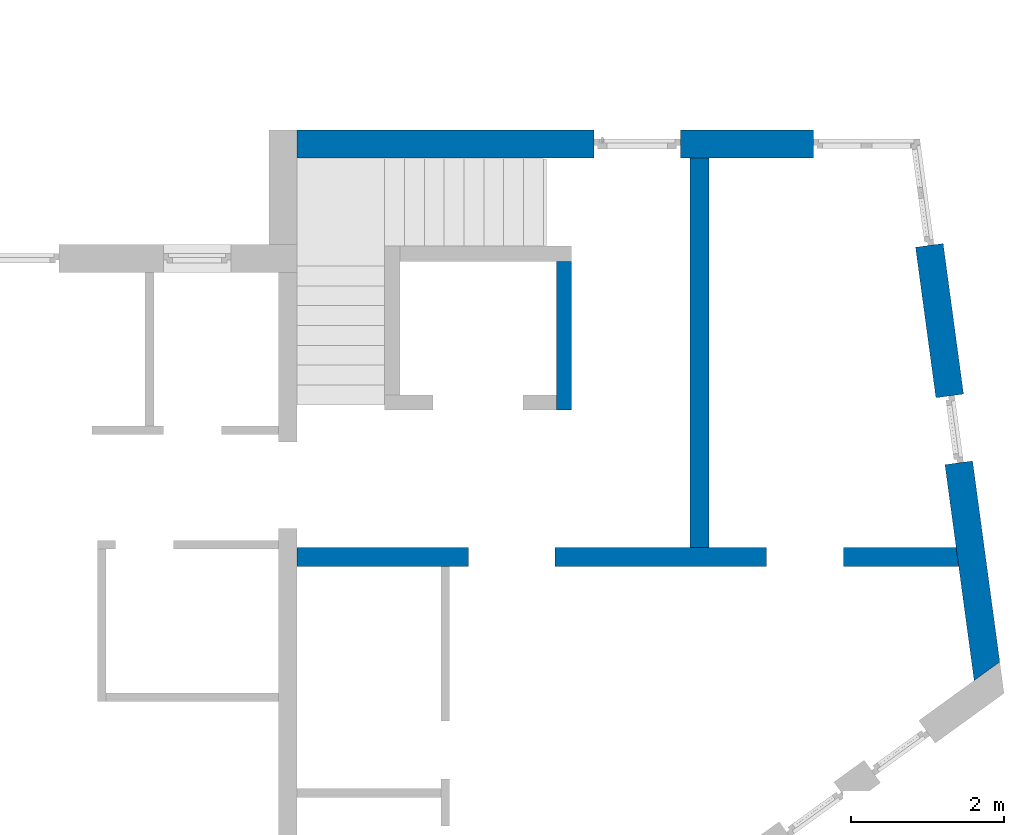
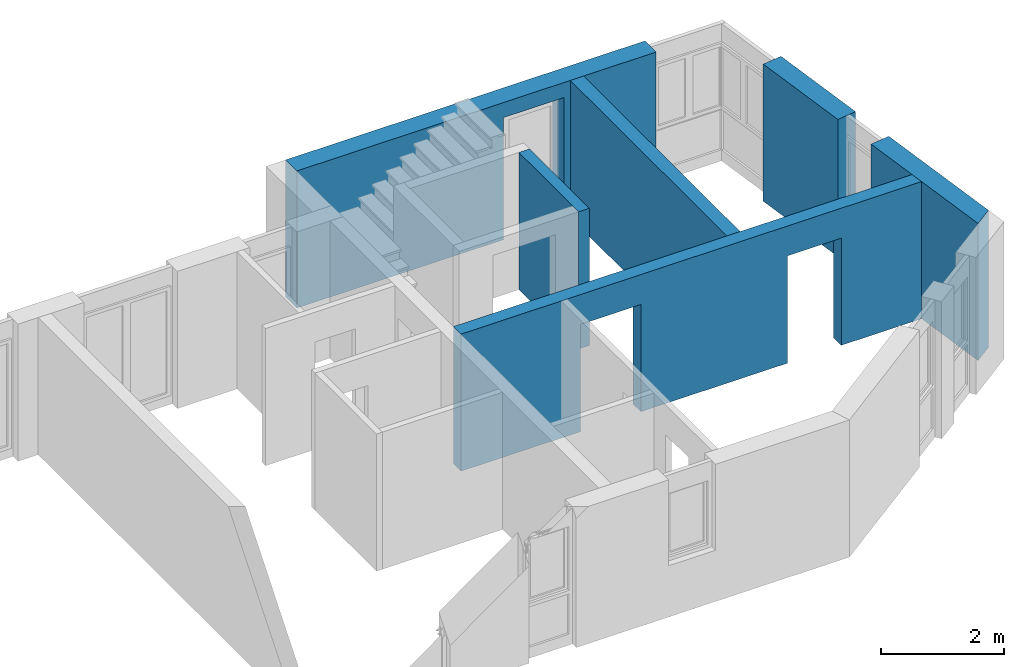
# One storey, part 3 of 41: 5 walls, 6 openings.
"""IFC2X3 building model written with IfcOpenShell, lengths in millimetres."""

from ifc_helpers import new_model, entity, si_unit, converted_unit, frame, frame_2d, origin, origin_with_axes, place, context, subcontext, project, spatial, polyline, rectangle, outline, extrude, faceted_brep, material, layer, layer_set, layer_usage, element, save


model = new_model("IFC2X3")

# Units and contexts
model_context = context("Model", 3, precision=1e-05, world=origin())
body_context = subcontext(model_context, "Body", "Model", "MODEL_VIEW")
ifc_project = project(units=[si_unit("LENGTHUNIT", "METRE", prefix="MILLI"), converted_unit("PLANEANGLEUNIT", "DEGREE", entity("IfcPlaneAngleMeasure", 0.0174532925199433), si_unit("PLANEANGLEUNIT", "RADIAN"), dimensions=[0, 0, 0, 0, 0, 0, 0]), si_unit("AREAUNIT", "SQUARE_METRE"), si_unit("VOLUMEUNIT", "CUBIC_METRE")], contexts=[model_context])

# Building, storey
building_placement = place(None, origin())
building = spatial("IfcBuilding", under=ifc_project, at=building_placement, Name="Gebäude", CompositionType="ELEMENT")
storey_placement = place(building_placement, frame((0.0, 0.0, -200.0), z_axis=(0.0, 0.0, 1.0), x_axis=(1.0, 0.0, 0.0)))
storey = spatial("IfcBuildingStorey", under=building, at=storey_placement, Name="EG.- Grundriss", CompositionType="ELEMENT", Elevation=-200.0)

# Wall, openings
ifc_material_1 = material(Name="Poroton")
ifc_layer_1 = layer(ifc_material_1, 365.0000000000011)
ifc_layer_set_1 = layer_set([ifc_layer_1])
ifc_layer_usage_1 = layer_usage(ifc_layer_set_1, "AXIS2", "POSITIVE", 0.0)
wall_1_placement = place(storey_placement, frame((185447.2761832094, 129305.31365621, 0.0), z_axis=(0.0, 0.0, 1.0), x_axis=(-0.1340451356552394, 0.9909752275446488, 0.0)))
wall_1 = element("IfcWallStandardCase", 1, at=wall_1_placement, inside=storey, material=ifc_layer_usage_1, Name="<Unnamed Element>", context=body_context, shape_type="SweptSolid", body=[
    extrude(outline(polyline([(0.0, 0.0), (7033.045713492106, 1.13686837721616e-13), (7082.417759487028, 365.0000000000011), (-195.7205517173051, 364.9999999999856), (0.0, 0.0)])), origin_with_axes(), (0.0, 0.0, 1.0), 2730.0),
])
opening_1_placement = place(wall_1_placement, frame((5533.045713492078, -1.84172677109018e-11, 0.0), z_axis=(0.0, 1.0, 0.0), x_axis=(0.0, 0.0, 1.0)))
element("IfcOpeningElement", 2, at=opening_1_placement, cuts=wall_1, Name="Fensteröffnung", ObjectType="Opening", context=body_context, shape_type="Brep", body=[
    faceted_brep([(0.0, 1.455191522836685e-11, 365.0), (0.0, 1.455191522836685e-11, 0.0), (0.0, 1500.000000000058, 0.0), (0.0, 1701.067703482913, 1486.46284131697), (0.0, 1339.361745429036, 1535.389315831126), (0.0, 1181.048005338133, 365.0), (2730.0, 1.455191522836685e-11, 0.0), (2730.0, 1.455191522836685e-11, 365.0), (2730.0, 1181.048005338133, 365.0), (2730.0, 1339.361745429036, 1535.389315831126), (2730.0, 1701.067703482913, 1486.46284131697), (2730.0, 1500.000000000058, 0.0), (0.0, 1.455191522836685e-11, 0.0), (0.0, 1.455191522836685e-11, 365.0), (2730.0, 1.455191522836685e-11, 365.0), (2730.0, 1.455191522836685e-11, 0.0), (0.0, 1500.000000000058, 0.0), (0.0, 1.455191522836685e-11, 0.0), (2730.0, 1.455191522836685e-11, 0.0), (2730.0, 1500.000000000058, 0.0), (0.0, 1.455191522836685e-11, 365.0), (0.0, 1181.048005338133, 365.0), (2730.0, 1181.048005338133, 365.0), (2730.0, 1.455191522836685e-11, 365.0), (0.0, 1701.067703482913, 1486.46284131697), (0.0, 1500.000000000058, 0.0), (2730.0, 1500.000000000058, 0.0), (2730.0, 1701.067703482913, 1486.46284131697), (0.0, 1339.361745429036, 1535.389315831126), (0.0, 1701.067703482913, 1486.46284131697), (2730.0, 1701.067703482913, 1486.46284131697), (2730.0, 1339.361745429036, 1535.389315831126), (0.0, 1181.048005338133, 365.0), (0.0, 1339.361745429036, 1535.389315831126), (2730.0, 1339.361745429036, 1535.389315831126), (2730.0, 1181.048005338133, 365.0)], [[[0, 1, 2, 3, 4, 5]], [[6, 7, 8, 9, 10, 11]], [[12, 13, 14, 15]], [[16, 17, 18, 19]], [[20, 21, 22, 23]], [[24, 25, 26, 27]], [[28, 29, 30, 31]], [[32, 33, 34, 35]]], orient=[[False], [False], [False], [False], [False], [False], [False], [False]]),
])
opening_2_placement = place(wall_1_placement, frame((2658.045713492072, -2.228262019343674e-11, 0.0), z_axis=(0.0, 1.0, 0.0), x_axis=(0.0, 0.0, 1.0)))
element("IfcOpeningElement", 3, at=opening_2_placement, cuts=wall_1, Name="Fensteröffnung", ObjectType="Opening", context=body_context, shape_type="SweptSolid", body=[
    extrude(rectangle(XDim=2730.0, YDim=885.0000000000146, at=frame_2d((1365.0, 442.5000000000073), x_axis=(1.0, 0.0))), origin_with_axes(), (0.0, 0.0, 1.0), 365.0000000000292),
])

# Wall
ifc_material_2 = material(Name="Stb-Wand")
ifc_layer_2 = layer(ifc_material_2, 200.0)
ifc_layer_set_2 = layer_set([ifc_layer_2])
ifc_layer_usage_2 = layer_usage(ifc_layer_set_2, "AXIS2", "POSITIVE", 0.0)
wall_2_placement = place(storey_placement, frame((179637.7928067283, 134554.8877324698, 0.0), z_axis=(0.0, 0.0, 1.0), x_axis=(0.0, -1.0, 0.0)))
element("IfcWallStandardCase", 4, at=wall_2_placement, inside=storey, material=ifc_layer_usage_2, Name="<Unnamed Element>", context=body_context, shape_type="SweptSolid", body=[
    extrude(rectangle(XDim=1950.0, YDim=200.0, at=frame_2d((975.0, 100.0), x_axis=(1.0, 0.0))), origin_with_axes(), (0.0, 0.0, 1.0), 2730.0),
])

# Wall, openings
ifc_material_3 = material(Name="Hlz")
ifc_layer_3 = layer(ifc_material_3, 250.0)
ifc_layer_set_3 = layer_set([ifc_layer_3])
ifc_layer_usage_3 = layer_usage(ifc_layer_set_3, "AXIS2", "POSITIVE", 0.0)
wall_3_placement = place(storey_placement, frame((184876.1109363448, 130804.8877324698, 0.0), z_axis=(0.0, 0.0, 1.0), x_axis=(-1.0, 0.0, 0.0)))
wall_3 = element("IfcWallStandardCase", 5, at=wall_3_placement, inside=storey, material=ifc_layer_usage_3, Name="<Unnamed Element>", context=body_context, shape_type="SweptSolid", body=[
    extrude(outline(polyline([(0.0, 0.0), (8638.31812961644, 0.0), (8638.31812961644, 250.0), (-33.81646985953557, 250.0), (0.0, 0.0)])), origin_with_axes(), (0.0, 0.0, 1.0), 2730.0),
])
opening_3_placement = place(wall_3_placement, frame((5253.31812961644, 0.0, 0.0), z_axis=(0.0, 1.0, 0.0), x_axis=(0.0, 0.0, 1.0)))
element("IfcOpeningElement", 6, at=opening_3_placement, cuts=wall_3, Name="Türöffnung", ObjectType="Opening", context=body_context, shape_type="SweptSolid", body=[
    extrude(rectangle(XDim=2135.0, YDim=1135.0, at=frame_2d((1067.5, 567.5), x_axis=(1.0, 0.0))), origin_with_axes(), (0.0, 0.0, 1.0), 250.0),
])
opening_4_placement = place(wall_3_placement, frame((1478.31812961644, 0.0, 0.0), z_axis=(0.0, 1.0, 0.0), x_axis=(0.0, 0.0, 1.0)))
element("IfcOpeningElement", 7, at=opening_4_placement, cuts=wall_3, Name="Türöffnung", ObjectType="Opening", context=body_context, shape_type="SweptSolid", body=[
    extrude(rectangle(XDim=2135.0, YDim=1010.0, at=frame_2d((1067.5, 505.0), x_axis=(1.0, 0.0))), origin_with_axes(), (0.0, 0.0, 1.0), 250.0),
])

# Wall
ifc_material_4 = material(Name="Hlz")
ifc_layer_4 = layer(ifc_material_4, 250.0)
ifc_layer_set_4 = layer_set([ifc_layer_4])
ifc_layer_usage_4 = layer_usage(ifc_layer_set_4, "AXIS2", "POSITIVE", 0.0)
wall_4_placement = place(storey_placement, frame((181387.7928067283, 135909.8877324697, 0.0), z_axis=(0.0, 0.0, 1.0), x_axis=(0.0, -1.0, 0.0)))
element("IfcWallStandardCase", 8, at=wall_4_placement, inside=storey, material=ifc_layer_usage_4, Name="<Unnamed Element>", context=body_context, shape_type="SweptSolid", body=[
    extrude(rectangle(XDim=5104.999999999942, YDim=250.0, at=frame_2d((2552.499999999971, 125.0), x_axis=(1.0, 0.0))), origin_with_axes(), (0.0, 0.0, 1.0), 2730.0),
])

# Wall, openings
ifc_material_5 = material(Name="Poroton")
ifc_layer_5 = layer(ifc_material_5, 365.0000000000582)
ifc_layer_set_5 = layer_set([ifc_layer_5])
ifc_layer_usage_5 = layer_usage(ifc_layer_set_5, "AXIS2", "POSITIVE", 0.0)
wall_5_placement = place(storey_placement, frame((184136.2065758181, 136274.8877324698, 0.0), z_axis=(0.0, 0.0, 1.0), x_axis=(-1.0, 0.0, 0.0)))
wall_5 = element("IfcWallStandardCase", 9, at=wall_5_placement, inside=storey, material=ifc_layer_usage_5, Name="<Unnamed Element>", context=body_context, shape_type="SweptSolid", body=[
    extrude(outline(polyline([(0.0, 0.0), (7898.413769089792, 0.0), (7898.413769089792, 365.0000000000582), (-49.37204599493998, 365.0000000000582), (0.0, 0.0)])), origin_with_axes(), (0.0, 0.0, 1.0), 2730.0),
])
opening_5_placement = place(wall_5_placement, frame((-368.3240406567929, 0.0, 0.0), z_axis=(0.0, 1.0, 0.0), x_axis=(0.0, 0.0, 1.0)))
element("IfcOpeningElement", 10, at=opening_5_placement, cuts=wall_5, Name="Fensteröffnung", ObjectType="Opening", context=body_context, shape_type="Brep", body=[
    faceted_brep([(0.0, 160.6382545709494, 1535.389315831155), (0.0, -201.0677034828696, 1486.462841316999), (0.0, 0.0, 0.0), (0.0, 1500.0, 0.0), (0.0, 1500.0, 365.0000000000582), (0.0, 318.951994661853, 365.0000000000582), (2730.0, -201.0677034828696, 1486.462841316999), (2730.0, 160.6382545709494, 1535.389315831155), (2730.0, 318.951994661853, 365.0000000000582), (2730.0, 1500.0, 365.0000000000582), (2730.0, 1500.0, 0.0), (2730.0, 0.0, 0.0), (0.0, 1500.0, 0.0), (0.0, 0.0, 0.0), (2730.0, 0.0, 0.0), (2730.0, 1500.0, 0.0), (0.0, 1500.0, 365.0000000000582), (0.0, 1500.0, 0.0), (2730.0, 1500.0, 0.0), (2730.0, 1500.0, 365.0000000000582), (0.0, 318.951994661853, 365.0000000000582), (0.0, 1500.0, 365.0000000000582), (2730.0, 1500.0, 365.0000000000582), (2730.0, 318.951994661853, 365.0000000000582), (0.0, -201.0677034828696, 1486.462841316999), (0.0, 160.6382545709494, 1535.389315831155), (2730.0, 160.6382545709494, 1535.389315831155), (2730.0, -201.0677034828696, 1486.462841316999), (0.0, 0.0, 0.0), (0.0, -201.0677034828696, 1486.462841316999), (2730.0, -201.0677034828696, 1486.462841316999), (2730.0, 0.0, 0.0), (0.0, 160.6382545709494, 1535.389315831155), (0.0, 318.951994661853, 365.0000000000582), (2730.0, 318.951994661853, 365.0000000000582), (2730.0, 160.6382545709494, 1535.389315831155)], [[[0, 1, 2, 3, 4, 5]], [[6, 7, 8, 9, 10, 11]], [[12, 13, 14, 15]], [[16, 17, 18, 19]], [[20, 21, 22, 23]], [[24, 25, 26, 27]], [[28, 29, 30, 31]], [[32, 33, 34, 35]]], orient=[[False], [False], [False], [False], [False], [False], [False], [False]]),
])
opening_6_placement = place(wall_5_placement, frame((2871.675959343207, 0.0, 0.0), z_axis=(0.0, 1.0, 0.0), x_axis=(0.0, 0.0, 1.0)))
element("IfcOpeningElement", 11, at=opening_6_placement, cuts=wall_5, Name="Türöffnung", ObjectType="Opening", context=body_context, shape_type="SweptSolid", body=[
    extrude(rectangle(XDim=2430.0, YDim=1135.0, at=frame_2d((1215.0, 567.5), x_axis=(1.0, 0.0))), origin_with_axes(), (0.0, 0.0, 1.0), 365.0000000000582),
])

save(model, "model.ifc")
